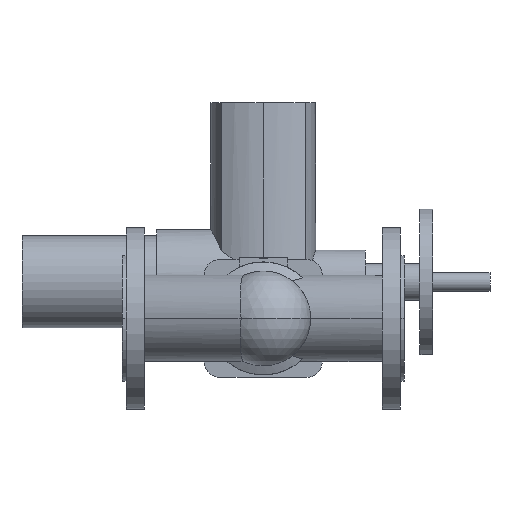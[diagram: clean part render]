
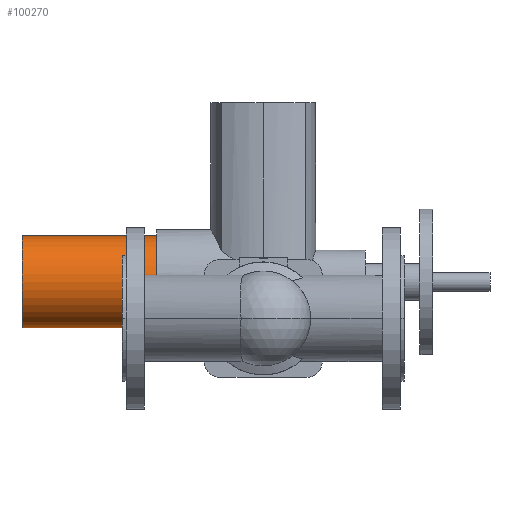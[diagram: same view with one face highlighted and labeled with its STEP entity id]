
A CAD part, front view. The second image highlights one B-rep face of the part: STEP entity #100270.
In plain terms, the highlighted cylindrical face has radius 50.5 mm (diameter 101 mm), a partial arc.
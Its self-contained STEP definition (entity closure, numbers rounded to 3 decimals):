
#57600=CARTESIAN_POINT('',(-36.,682.7,40.));
#57610=DIRECTION('',(1.,0.,0.));
#57620=DIRECTION('',(0.,0.,-1.));
#57630=AXIS2_PLACEMENT_3D('',#57600,#57610,#57620);
#57640=CYLINDRICAL_SURFACE('',#57630,50.5);
#57650=CARTESIAN_POINT('',(-36.,682.7,90.5));
#57660=DIRECTION('',(1.,0.,0.));
#57670=VECTOR('',#57660,1.);
#57680=LINE('',#57650,#57670);
#57690=CARTESIAN_POINT('',(-110.,682.7,90.5));
#57700=VERTEX_POINT('',#57690);
#57710=CARTESIAN_POINT('',(38.,682.7,90.5));
#57720=VERTEX_POINT('',#57710);
#57730=SURFACE_CURVE('',#57680,(#57640,#57640),.CURVE_3D.);
#57740=EDGE_CURVE('',#57700,#57720,#57730,.T.);
#57760=CARTESIAN_POINT('',(-110.,682.7,40.));
#57770=DIRECTION('',(-1.,0.,0.));
#57780=DIRECTION('',(0.,0.,-1.));
#57790=AXIS2_PLACEMENT_3D('',#57760,#57770,#57780);
#57800=CIRCLE('',#57790,50.5);
#57810=CARTESIAN_POINT('',(-110.,682.7,-10.5));
#57820=VERTEX_POINT('',#57810);
#57830=CARTESIAN_POINT('',(-110.,682.7,14.75));
#57840=DIRECTION('',(-1.,0.,0.));
#57850=DIRECTION('',(0.,0.,-1.));
#57860=AXIS2_PLACEMENT_3D('',#57830,#57840,#57850);
#57870=PLANE('',#57860);
#57910=CARTESIAN_POINT('',(-36.,682.7,-10.5));
#57920=DIRECTION('',(1.,0.,0.));
#57930=VECTOR('',#57920,1.);
#57940=LINE('',#57910,#57930);
#57950=CARTESIAN_POINT('',(38.,682.7,-10.5));
#57960=VERTEX_POINT('',#57950);
#57970=SURFACE_CURVE('',#57940,(#57640,#57640),.CURVE_3D.);
#57980=EDGE_CURVE('',#57820,#57960,#57970,.T.);
#58000=CARTESIAN_POINT('',(38.,682.7,40.));
#58010=DIRECTION('',(-1.,0.,0.));
#58020=DIRECTION('',(0.,0.,-1.));
#58030=AXIS2_PLACEMENT_3D('',#58000,#58010,#58020);
#58040=CIRCLE('',#58030,50.5);
#58050=CARTESIAN_POINT('',(38.,682.7,-14.));
#58060=DIRECTION('',(-1.,0.,0.));
#58070=DIRECTION('',(0.,0.,-1.));
#58080=AXIS2_PLACEMENT_3D('',#58050,#58060,#58070);
#58090=PLANE('',#58080);
#81530=SURFACE_CURVE('',#58040,(#58090,#57640),.CURVE_3D.);
#81540=EDGE_CURVE('',#57960,#57720,#81530,.T.);
#81790=SURFACE_CURVE('',#57800,(#57640,#57870),.CURVE_3D.);
#81800=EDGE_CURVE('',#57820,#57700,#81790,.T.);
#100210=ORIENTED_EDGE('',*,*,#81800,.F.);
#100220=ORIENTED_EDGE('',*,*,#57740,.F.);
#100230=ORIENTED_EDGE('',*,*,#81540,.T.);
#100240=ORIENTED_EDGE('',*,*,#57980,.T.);
#100250=EDGE_LOOP('',(#100240,#100230,#100220,#100210));
#100260=FACE_OUTER_BOUND('',#100250,.T.);
#100270=ADVANCED_FACE('',(#100260),#57640,.T.);
